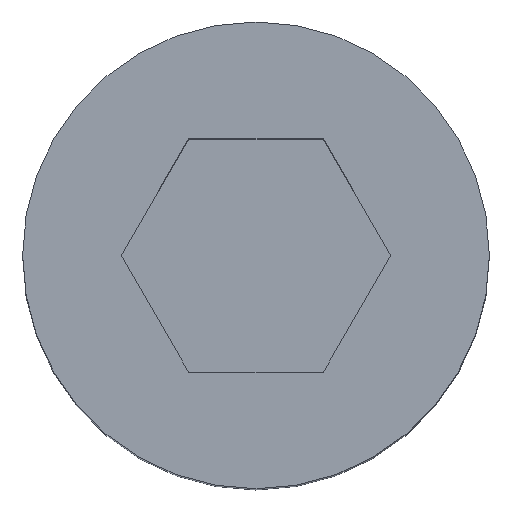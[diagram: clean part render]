
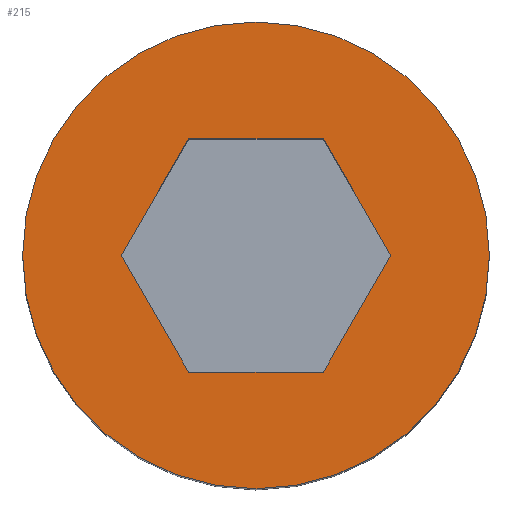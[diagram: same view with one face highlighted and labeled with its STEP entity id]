
A CAD part, top view. The second image highlights one B-rep face of the part: STEP entity #215.
In plain terms, the highlighted planar face has unit normal (0, 0, 1).
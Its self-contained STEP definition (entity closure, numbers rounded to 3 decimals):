
#13 = FACE_BOUND ( 'NONE', #181, .T. ) ;
#14 = FACE_OUTER_BOUND ( 'NONE', #186, .T. ) ;
#48 = PLANE ( 'NONE',  #343 ) ;
#60 = DIRECTION ( 'NONE',  ( 0., 0., 1. ) ) ;
#61 = CARTESIAN_POINT ( 'NONE',  ( 0., 0., 0. ) ) ;
#68 = VECTOR ( 'NONE', #278, 1000. ) ;
#70 = CIRCLE ( 'NONE', #361, 1.5 ) ;
#71 = CIRCLE ( 'NONE', #360, 1.5 ) ;
#73 = LINE ( 'NONE', #279, #75 ) ;
#75 = VECTOR ( 'NONE', #281, 1000. ) ;
#76 = LINE ( 'NONE', #277, #68 ) ;
#87 = VECTOR ( 'NONE', #302, 1000. ) ;
#88 = LINE ( 'NONE', #297, #92 ) ;
#89 = VECTOR ( 'NONE', #288, 1000. ) ;
#91 = LINE ( 'NONE', #287, #97 ) ;
#92 = VECTOR ( 'NONE', #298, 1000. ) ;
#93 = LINE ( 'NONE', #292, #89 ) ;
#95 = LINE ( 'NONE', #301, #87 ) ;
#97 = VECTOR ( 'NONE', #282, 1000. ) ;
#98 = ORIENTED_EDGE ( 'NONE', *, *, #385, .F. ) ;
#99 = ORIENTED_EDGE ( 'NONE', *, *, #382, .T. ) ;
#100 = ORIENTED_EDGE ( 'NONE', *, *, #386, .F. ) ;
#108 = ORIENTED_EDGE ( 'NONE', *, *, #380, .T. ) ;
#110 = ORIENTED_EDGE ( 'NONE', *, *, #388, .F. ) ;
#121 = ORIENTED_EDGE ( 'NONE', *, *, #378, .F. ) ;
#124 = ORIENTED_EDGE ( 'NONE', *, *, #383, .F. ) ;
#125 = ORIENTED_EDGE ( 'NONE', *, *, #379, .F. ) ;
#171 = VERTEX_POINT ( 'NONE', #425 ) ;
#172 = VERTEX_POINT ( 'NONE', #421 ) ;
#181 = EDGE_LOOP ( 'NONE', ( #124, #110, #100, #121, #98, #125 ) ) ;
#186 = EDGE_LOOP ( 'NONE', ( #108, #99 ) ) ;
#191 = VERTEX_POINT ( 'NONE', #409 ) ;
#192 = VERTEX_POINT ( 'NONE', #422 ) ;
#193 = VERTEX_POINT ( 'NONE', #420 ) ;
#194 = VERTEX_POINT ( 'NONE', #410 ) ;
#196 = VERTEX_POINT ( 'NONE', #416 ) ;
#199 = VERTEX_POINT ( 'NONE', #414 ) ;
#215 = ADVANCED_FACE ( 'NONE', ( #13, #14 ), #48, .T. ) ;
#277 = CARTESIAN_POINT ( 'NONE',  ( -0.433, 0.75, 0. ) ) ;
#278 = DIRECTION ( 'NONE',  ( -0.5, -0.866, 0. ) ) ;
#279 = CARTESIAN_POINT ( 'NONE',  ( 0.866, 0., 0. ) ) ;
#281 = DIRECTION ( 'NONE',  ( -0.5, 0.866, 0. ) ) ;
#282 = DIRECTION ( 'NONE',  ( 0.5, 0.866, 0. ) ) ;
#284 = CARTESIAN_POINT ( 'NONE',  ( 0., 0., 0. ) ) ;
#285 = DIRECTION ( 'NONE',  ( 0., 0., 1. ) ) ;
#286 = DIRECTION ( 'NONE',  ( 1., 0., 0. ) ) ;
#287 = CARTESIAN_POINT ( 'NONE',  ( 0.433, -0.75, 0. ) ) ;
#288 = DIRECTION ( 'NONE',  ( -1., 0., 0. ) ) ;
#289 = CARTESIAN_POINT ( 'NONE',  ( 0., 0., 0. ) ) ;
#290 = DIRECTION ( 'NONE',  ( 0., 0., 1. ) ) ;
#291 = DIRECTION ( 'NONE',  ( 1., 0., 0. ) ) ;
#292 = CARTESIAN_POINT ( 'NONE',  ( 0.433, 0.75, 0. ) ) ;
#297 = CARTESIAN_POINT ( 'NONE',  ( -0.866, 0., 0. ) ) ;
#298 = DIRECTION ( 'NONE',  ( 0.5, -0.866, 0. ) ) ;
#301 = CARTESIAN_POINT ( 'NONE',  ( -0.433, -0.75, 0. ) ) ;
#302 = DIRECTION ( 'NONE',  ( 1., 0., 0. ) ) ;
#343 = AXIS2_PLACEMENT_3D ( 'NONE', #61, #60, #396 ) ;
#360 = AXIS2_PLACEMENT_3D ( 'NONE', #284, #285, #286 ) ;
#361 = AXIS2_PLACEMENT_3D ( 'NONE', #289, #290, #291 ) ;
#378 = EDGE_CURVE ( 'NONE', #171, #194, #76, .T. ) ;
#379 = EDGE_CURVE ( 'NONE', #191, #196, #73, .T. ) ;
#380 = EDGE_CURVE ( 'NONE', #192, #193, #71, .T. ) ;
#382 = EDGE_CURVE ( 'NONE', #193, #192, #70, .T. ) ;
#383 = EDGE_CURVE ( 'NONE', #199, #191, #91, .T. ) ;
#385 = EDGE_CURVE ( 'NONE', #196, #171, #93, .T. ) ;
#386 = EDGE_CURVE ( 'NONE', #194, #172, #88, .T. ) ;
#388 = EDGE_CURVE ( 'NONE', #172, #199, #95, .T. ) ;
#396 = DIRECTION ( 'NONE',  ( 1., 0., 0. ) ) ;
#409 = CARTESIAN_POINT ( 'NONE',  ( 0.866, 0., 0. ) ) ;
#410 = CARTESIAN_POINT ( 'NONE',  ( -0.866, 0., 0. ) ) ;
#414 = CARTESIAN_POINT ( 'NONE',  ( 0.433, -0.75, 0. ) ) ;
#416 = CARTESIAN_POINT ( 'NONE',  ( 0.433, 0.75, 0. ) ) ;
#420 = CARTESIAN_POINT ( 'NONE',  ( -1.5, 0., 0. ) ) ;
#421 = CARTESIAN_POINT ( 'NONE',  ( -0.433, -0.75, 0. ) ) ;
#422 = CARTESIAN_POINT ( 'NONE',  ( 1.5, 0., 0. ) ) ;
#425 = CARTESIAN_POINT ( 'NONE',  ( -0.433, 0.75, 0. ) ) ;
